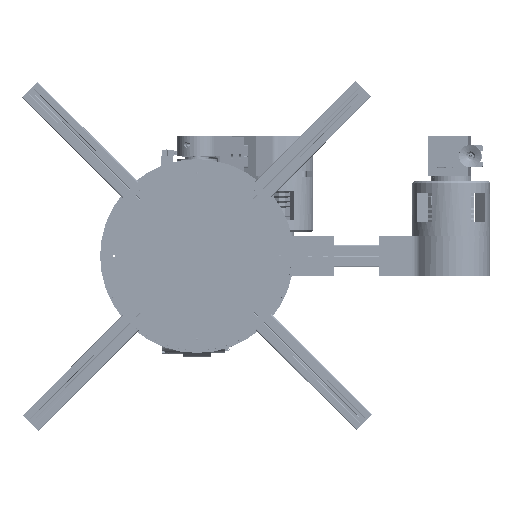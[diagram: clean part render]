
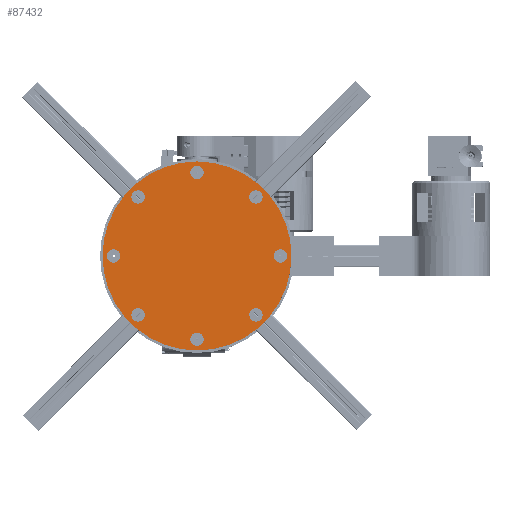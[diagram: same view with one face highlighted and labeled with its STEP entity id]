
A CAD part, top view. The second image highlights one B-rep face of the part: STEP entity #87432.
In plain terms, the highlighted planar face has unit normal (0, 0, 1) as drawn and (0, 1, 0) by its records, which use the part's own axes.
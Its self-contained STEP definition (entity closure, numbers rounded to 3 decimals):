
#11651=FACE_BOUND('',#20260,.T.);
#11652=FACE_BOUND('',#20261,.T.);
#11653=FACE_BOUND('',#20262,.T.);
#11654=FACE_BOUND('',#20263,.T.);
#11655=FACE_BOUND('',#20264,.T.);
#11656=FACE_BOUND('',#20265,.T.);
#11657=FACE_BOUND('',#20266,.T.);
#11658=FACE_BOUND('',#20267,.T.);
#15366=FACE_OUTER_BOUND('',#20259,.T.);
#20259=EDGE_LOOP('',(#76462));
#20260=EDGE_LOOP('',(#76463));
#20261=EDGE_LOOP('',(#76464));
#20262=EDGE_LOOP('',(#76465));
#20263=EDGE_LOOP('',(#76466));
#20264=EDGE_LOOP('',(#76467));
#20265=EDGE_LOOP('',(#76468));
#20266=EDGE_LOOP('',(#76469));
#20267=EDGE_LOOP('',(#76470));
#23233=CIRCLE('',#95118,6.);
#23237=CIRCLE('',#95125,6.);
#23241=CIRCLE('',#95132,6.);
#23245=CIRCLE('',#95139,6.);
#23249=CIRCLE('',#95146,6.);
#23253=CIRCLE('',#95153,6.);
#23257=CIRCLE('',#95160,6.);
#23261=CIRCLE('',#95167,6.);
#23263=CIRCLE('',#95171,85.);
#45632=VERTEX_POINT('',#151630);
#45636=VERTEX_POINT('',#151643);
#45640=VERTEX_POINT('',#151656);
#45644=VERTEX_POINT('',#151669);
#45648=VERTEX_POINT('',#151682);
#45652=VERTEX_POINT('',#151695);
#45656=VERTEX_POINT('',#151708);
#45660=VERTEX_POINT('',#151721);
#45662=VERTEX_POINT('',#151729);
#56126=EDGE_CURVE('',#45632,#45632,#23233,.T.);
#56132=EDGE_CURVE('',#45636,#45636,#23237,.T.);
#56138=EDGE_CURVE('',#45640,#45640,#23241,.T.);
#56144=EDGE_CURVE('',#45644,#45644,#23245,.T.);
#56150=EDGE_CURVE('',#45648,#45648,#23249,.T.);
#56156=EDGE_CURVE('',#45652,#45652,#23253,.T.);
#56162=EDGE_CURVE('',#45656,#45656,#23257,.T.);
#56168=EDGE_CURVE('',#45660,#45660,#23261,.T.);
#56172=EDGE_CURVE('',#45662,#45662,#23263,.T.);
#76462=ORIENTED_EDGE('',*,*,#56172,.T.);
#76463=ORIENTED_EDGE('',*,*,#56126,.T.);
#76464=ORIENTED_EDGE('',*,*,#56132,.T.);
#76465=ORIENTED_EDGE('',*,*,#56138,.T.);
#76466=ORIENTED_EDGE('',*,*,#56144,.T.);
#76467=ORIENTED_EDGE('',*,*,#56150,.T.);
#76468=ORIENTED_EDGE('',*,*,#56156,.T.);
#76469=ORIENTED_EDGE('',*,*,#56162,.T.);
#76470=ORIENTED_EDGE('',*,*,#56168,.T.);
#83556=PLANE('',#95173);
#87432=ADVANCED_FACE('',(#15366,#11651,#11652,#11653,#11654,#11655,#11656,
#11657,#11658),#83556,.T.);
#95118=AXIS2_PLACEMENT_3D('',#151631,#116037,#116038);
#95125=AXIS2_PLACEMENT_3D('',#151644,#116053,#116054);
#95132=AXIS2_PLACEMENT_3D('',#151657,#116069,#116070);
#95139=AXIS2_PLACEMENT_3D('',#151670,#116085,#116086);
#95146=AXIS2_PLACEMENT_3D('',#151683,#116101,#116102);
#95153=AXIS2_PLACEMENT_3D('',#151696,#116117,#116118);
#95160=AXIS2_PLACEMENT_3D('',#151709,#116133,#116134);
#95167=AXIS2_PLACEMENT_3D('',#151722,#116149,#116150);
#95171=AXIS2_PLACEMENT_3D('',#151730,#116159,#116160);
#95173=AXIS2_PLACEMENT_3D('',#151734,#116164,#116165);
#116037=DIRECTION('center_axis',(0.,-1.,0.));
#116038=DIRECTION('ref_axis',(0.707,0.,0.707));
#116053=DIRECTION('center_axis',(0.,-1.,0.));
#116054=DIRECTION('ref_axis',(0.,0.,1.));
#116069=DIRECTION('center_axis',(0.,-1.,0.));
#116070=DIRECTION('ref_axis',(-0.707,0.,0.707));
#116085=DIRECTION('center_axis',(0.,-1.,0.));
#116086=DIRECTION('ref_axis',(-1.,0.,0.));
#116101=DIRECTION('center_axis',(0.,-1.,0.));
#116102=DIRECTION('ref_axis',(-0.707,0.,-0.707));
#116117=DIRECTION('center_axis',(0.,-1.,0.));
#116118=DIRECTION('ref_axis',(0.,0.,-1.));
#116133=DIRECTION('center_axis',(0.,-1.,0.));
#116134=DIRECTION('ref_axis',(0.707,0.,-0.707));
#116149=DIRECTION('center_axis',(0.,-1.,0.));
#116150=DIRECTION('ref_axis',(1.,0.,0.));
#116159=DIRECTION('center_axis',(0.,1.,0.));
#116160=DIRECTION('ref_axis',(-1.,0.,0.));
#116164=DIRECTION('center_axis',(0.,1.,0.));
#116165=DIRECTION('ref_axis',(0.,0.,1.));
#151630=CARTESIAN_POINT('',(-57.276,40.,48.79));
#151631=CARTESIAN_POINT('Origin',(-53.033,40.,53.033));
#151643=CARTESIAN_POINT('',(-75.,40.,-6.));
#151644=CARTESIAN_POINT('Origin',(-75.,40.,0.));
#151656=CARTESIAN_POINT('',(-48.79,40.,-57.276));
#151657=CARTESIAN_POINT('Origin',(-53.033,40.,-53.033));
#151669=CARTESIAN_POINT('',(6.,40.,-75.));
#151670=CARTESIAN_POINT('Origin',(0.,40.,-75.));
#151682=CARTESIAN_POINT('',(57.276,40.,-48.79));
#151683=CARTESIAN_POINT('Origin',(53.033,40.,-53.033));
#151695=CARTESIAN_POINT('',(75.,40.,6.));
#151696=CARTESIAN_POINT('Origin',(75.,40.,0.));
#151708=CARTESIAN_POINT('',(48.79,40.,57.276));
#151709=CARTESIAN_POINT('Origin',(53.033,40.,53.033));
#151721=CARTESIAN_POINT('',(-6.,40.,75.));
#151722=CARTESIAN_POINT('Origin',(0.,40.,75.));
#151729=CARTESIAN_POINT('',(85.,40.,0.));
#151730=CARTESIAN_POINT('Origin',(0.,40.,0.));
#151734=CARTESIAN_POINT('Origin',(0.,40.,0.));
